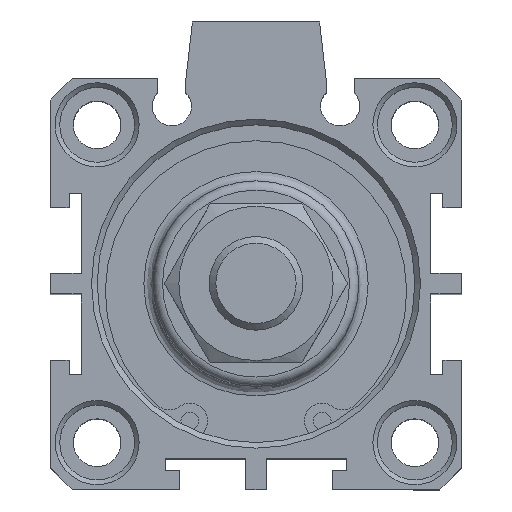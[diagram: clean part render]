
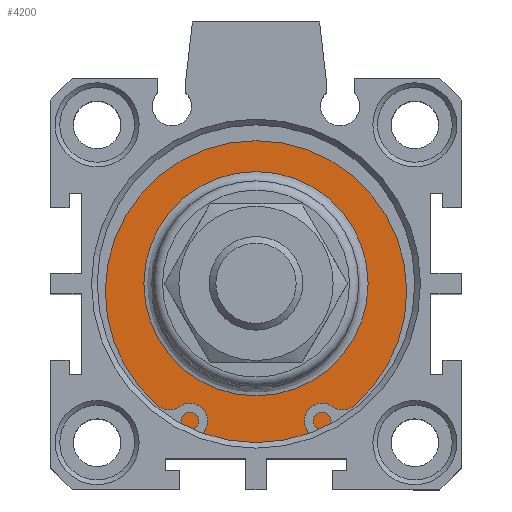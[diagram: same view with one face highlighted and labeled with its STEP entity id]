
A CAD part, top view. The second image highlights one B-rep face of the part: STEP entity #4200.
In plain terms, the highlighted planar face has unit normal (0, 0, 1).
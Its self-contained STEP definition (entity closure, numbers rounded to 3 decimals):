
#4149=CARTESIAN_POINT('',(2.273,12.598,40.8));
#4150=VERTEX_POINT('',#4149);
#4151=CARTESIAN_POINT('',(2.273,0.598,40.8));
#4152=DIRECTION('',(0.0,0.0,1.0));
#4153=DIRECTION('',(0.0,-1.0,0.0));
#4154=AXIS2_PLACEMENT_3D('',#4151,#4152,#4153);
#4155=CIRCLE('',#4154,12.0);
#4156=EDGE_CURVE('',#4150,#4150,#4155,.T.);
#4181=CARTESIAN_POINT('',(2.273,14.598,40.8));
#4182=DIRECTION('',(0.0,0.0,1.0));
#4183=DIRECTION('',(1.0,0.0,0.0));
#4184=AXIS2_PLACEMENT_3D('',#4181,#4182,#4183);
#4185=PLANE('',#4184);
#4186=CARTESIAN_POINT('',(2.273,17.598,40.8));
#4187=VERTEX_POINT('',#4186);
#4188=CARTESIAN_POINT('',(2.273,0.598,40.8));
#4189=DIRECTION('',(0.0,0.0,-1.0));
#4190=DIRECTION('',(0.0,1.0,0.0));
#4191=AXIS2_PLACEMENT_3D('',#4188,#4189,#4190);
#4192=CIRCLE('',#4191,17.);
#4193=EDGE_CURVE('',#4187,#4187,#4192,.T.);
#4194=ORIENTED_EDGE('',*,*,#4193,.F.);
#4195=EDGE_LOOP('',(#4194));
#4196=FACE_OUTER_BOUND('',#4195,.T.);
#4197=ORIENTED_EDGE('',*,*,#4156,.F.);
#4198=EDGE_LOOP('',(#4197));
#4199=FACE_BOUND('',#4198,.T.);
#4200=ADVANCED_FACE('',(#4196,#4199),#4185,.T.);
